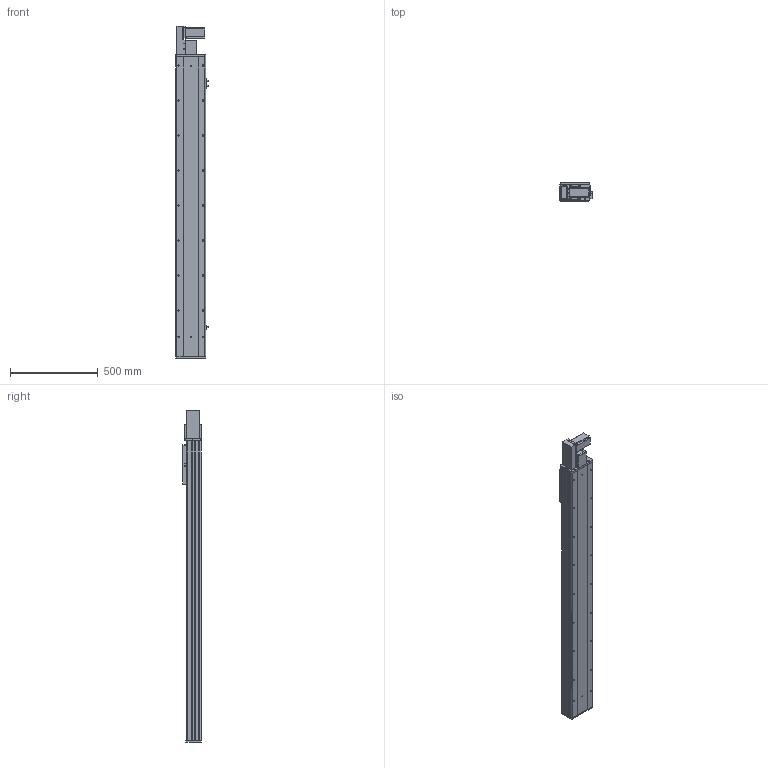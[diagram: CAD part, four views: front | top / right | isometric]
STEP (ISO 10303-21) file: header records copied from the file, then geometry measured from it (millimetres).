
FILE_DESCRIPTION (( 'STEP AP203' ), '1' );
FILE_NAME ('Y170CB-D105-S1400-BL-P400W.STEP', '2020-02-20T01:24:30', ( '微软用户' ), ( '微软中国' ), 'SwSTEP 2.0', 'SolidWorks 2017', '' );
FILE_SCHEMA (( 'CONFIG_CONTROL_DESIGN' ));
Length unit declared in the file: millimetre
Products named in the file (18): 0C--雄赽釱俋欶-170; san松下电机400不带刹车----; 70CB-詩湍--; Y70俋欶BR----; Y100-135俋离換覜ん--; 70CB-掛极-; Y170CB-陔俋离換覜結え---; --70CB --喘謫眊楊擘啣-; 70B喘謫眊----; 70CB-耜裔啣-; Y1埴倛裔; 70C--詩湍揤踡え-; B-源倛裔啣; Y170CB-D105-S1400-BL-P400W; 70CB--耜裔; 17B-耜蚾蟀諉啣----; 70C-雄赽釱-奻-; 0B-萇儂楊擘啣
Assembly tree (21 placements, depth 2):
  Y170CB-D105-S1400-BL-P400W
    B-源倛裔啣
    17B-耜蚾蟀諉啣----
    0B-萇儂楊擘啣
    san松下电机400不带刹车----
    Y70俋欶BR----
    70CB-掛极-
    --70CB --喘謫眊楊擘啣-
    70CB-耜裔啣-  x2
    70C--詩湍揤踡え-  x2
    70CB--耜裔
    70C-雄赽釱-奻-
    0C--雄赽釱俋欶-170
    70CB-詩湍--
    Y100-135俋离換覜ん--  x3
    Y170CB-陔俋离換覜結え---
    70B喘謫眊----
    Y1埴倛裔
Bounding box: 183.5 x 107 x 1897 mm (x, y, z)
Volume: 8112574.5 mm3; surface area: 2914621.4 mm2
Topology: 21 solids, 21 shells, 1023 faces, 2741 edges, 1818 vertices
Faces by surface type: cylinder 535, plane 464, cone 24
Entity records: 32612 total; most frequent: CARTESIAN_POINT 5976, DIRECTION 5302, ORIENTED_EDGE 4964, EDGE_CURVE 2482, AXIS2_PLACEMENT_3D 1944, VERTEX_POINT 1648, LINE 1414, VECTOR 1414
